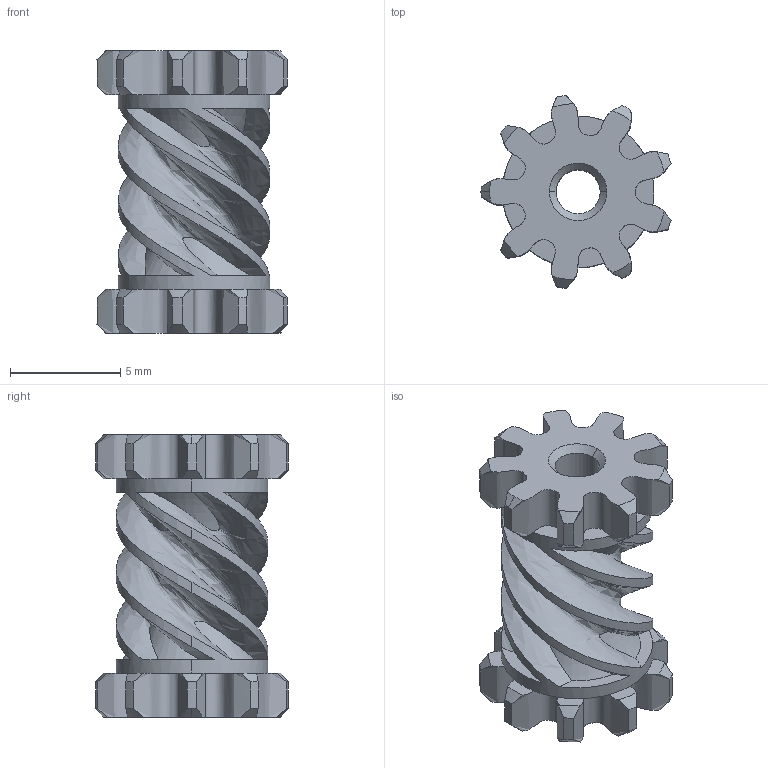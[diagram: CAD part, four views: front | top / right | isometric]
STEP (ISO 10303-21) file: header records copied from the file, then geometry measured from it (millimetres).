
FILE_DESCRIPTION (( 'STEP AP214' ), '1' );
FILE_NAME ('ﾑ瑣褄頸 ﾇﾊ 13.STEP', '2019-03-21T14:03:45', ( '' ), ( '' ), 'SwSTEP 2.0', 'SolidWorks 2018', '' );
FILE_SCHEMA (( 'AUTOMOTIVE_DESIGN' ));
Length unit declared in the file: millimetre
Products named in the file (1): ﾑ瑣褄頸 ﾇﾊ 13
Bounding box: 8.61 x 8.73 x 12.79 mm (x, y, z)
Volume: 340.5 mm3; surface area: 635.3 mm2
Topology: 1 solids, 1 shells, 151 faces, 407 edges, 258 vertices
Faces by surface type: plane 48, cone 42, cylinder 25, bspline 23, torus 13
Entity records: 61362 total; most frequent: CARTESIAN_POINT 57926, ORIENTED_EDGE 814, DIRECTION 616, EDGE_CURVE 407, AXIS2_PLACEMENT_3D 281, VERTEX_POINT 258, B_SPLINE_CURVE_WITH_KNOTS 159, EDGE_LOOP 153
